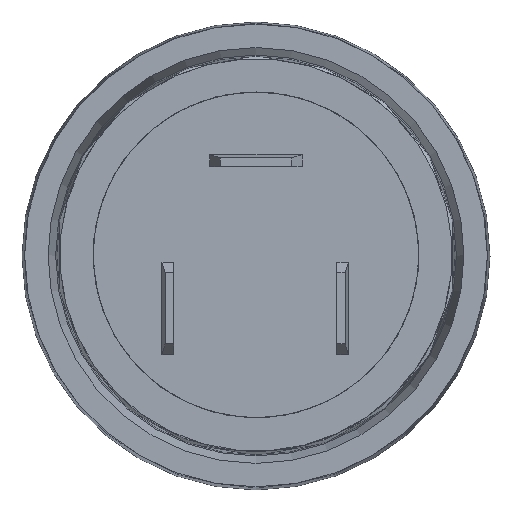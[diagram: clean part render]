
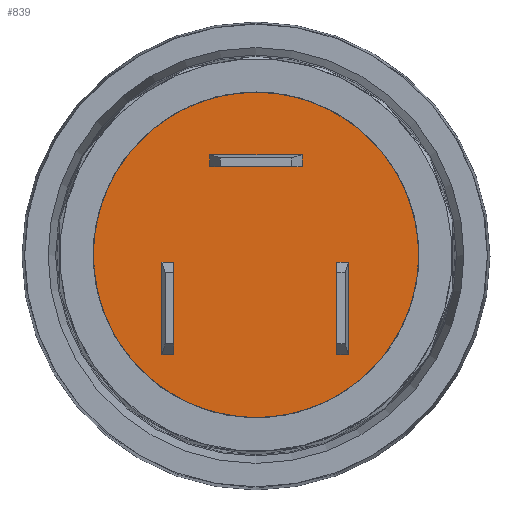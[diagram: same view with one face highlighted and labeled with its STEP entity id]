
A CAD part, top view. The second image highlights one B-rep face of the part: STEP entity #839.
In plain terms, the highlighted planar face has unit normal (0, 0, 1).
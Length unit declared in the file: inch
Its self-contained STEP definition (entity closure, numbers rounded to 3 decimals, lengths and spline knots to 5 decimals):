
#2 = EDGE_LOOP ( 'NONE', ( #1158 ) ) ;
#210 = DIRECTION ( 'NONE',  ( 0., 0., 1. ) ) ;
#839 = ADVANCED_FACE ( 'NONE', ( #2132 ), #1723, .T. ) ;
#1158 = ORIENTED_EDGE ( 'NONE', *, *, #4395, .T. ) ;
#1331 = CARTESIAN_POINT ( 'NONE',  ( 0., 0., 2.94582 ) ) ;
#1393 = CIRCLE ( 'NONE', #3505, 0.44 ) ;
#1502 = VERTEX_POINT ( 'NONE', #2811 ) ;
#1578 = DIRECTION ( 'NONE',  ( 0., -1., 0. ) ) ;
#1723 = PLANE ( 'NONE',  #3370 ) ;
#2132 = FACE_OUTER_BOUND ( 'NONE', #2, .T. ) ;
#2713 = DIRECTION ( 'NONE',  ( 0., -1., 0. ) ) ;
#2811 = CARTESIAN_POINT ( 'NONE',  ( 0., -0.44, 2.94582 ) ) ;
#3030 = DIRECTION ( 'NONE',  ( 0., 0., 1. ) ) ;
#3370 = AXIS2_PLACEMENT_3D ( 'NONE', #1331, #3030, #2713 ) ;
#3505 = AXIS2_PLACEMENT_3D ( 'NONE', #3642, #210, #1578 ) ;
#3642 = CARTESIAN_POINT ( 'NONE',  ( 0., 0., 2.94582 ) ) ;
#4395 = EDGE_CURVE ( 'NONE', #1502, #1502, #1393, .T. ) ;
